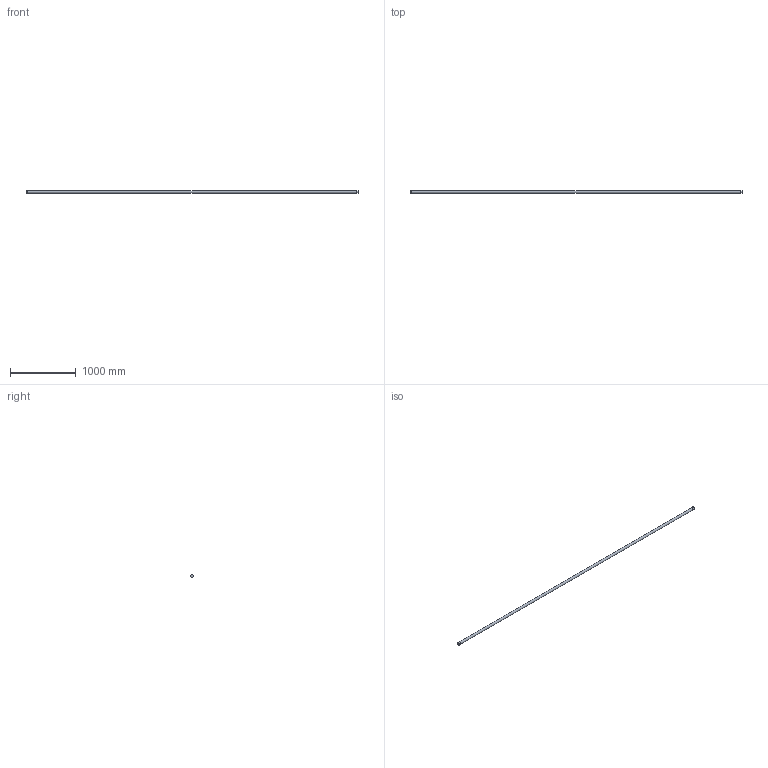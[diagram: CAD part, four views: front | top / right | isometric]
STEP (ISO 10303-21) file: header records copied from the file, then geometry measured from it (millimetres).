
FILE_DESCRIPTION(('FreeCAD Model'),'2;1');
FILE_NAME('Open CASCADE Shape Model','2026-10-12T23:06:14',('Author'),( ''),'Open CASCADE STEP processor 7.8','FreeCAD','Unknown');
FILE_SCHEMA(('AUTOMOTIVE_DESIGN { 1 0 10303 214 1 1 1 1 }'));
Length unit declared in the file: millimetre
Products named in the file (4): noodles; Rope_bucatini_5m; EndCap_Start; EndCap_End
Assembly tree (3 placements, depth 2):
  noodles
    Rope_bucatini_5m
    EndCap_Start
    EndCap_End
Bounding box: 5056 x 41.6 x 41.6 mm (x, y, z)
Volume: 6359299.3 mm3; surface area: 643587.2 mm2
Topology: 3 solids, 3 shells, 9 faces, 9 edges, 6 vertices
Faces by surface type: plane 6, cylinder 3
Full cylindrical faces by diameter (mm): 40 x1, 41.6 x2
Entity records: 229 total; most frequent: DIRECTION 41, CARTESIAN_POINT 28, AXIS2_PLACEMENT_3D 19, ORIENTED_EDGE 18, ADVANCED_FACE 9, FACE_BOUND 9, EDGE_LOOP 9, EDGE_CURVE 9
